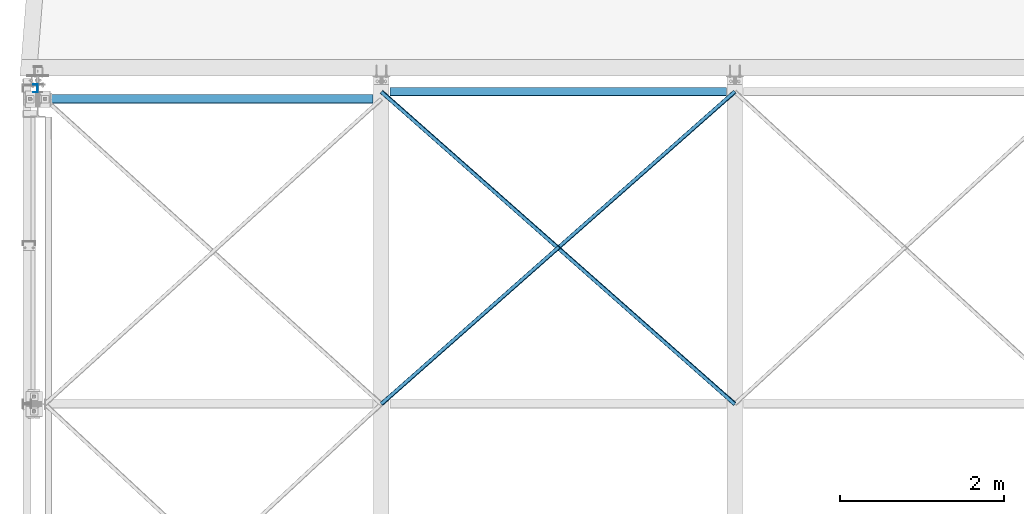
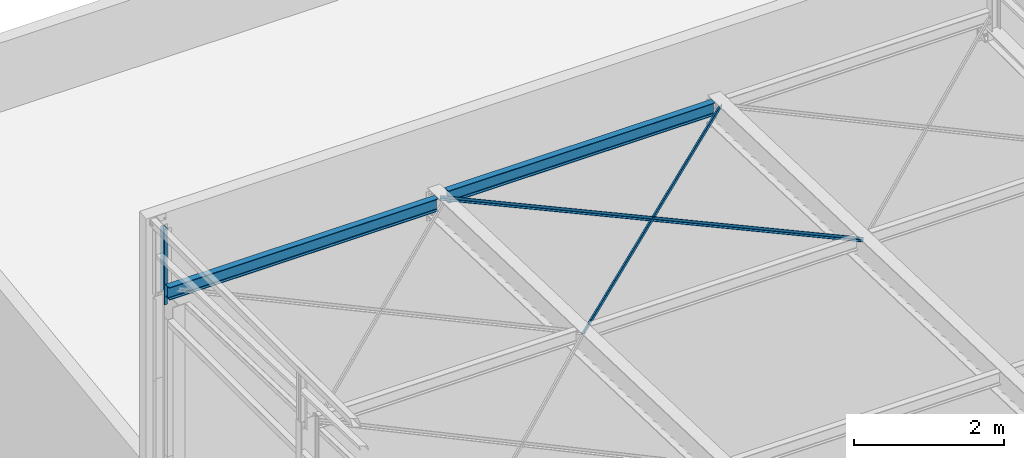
# One storey, part 27 of 123: 5 beams, 5 elements without a shape of their own.
"""IFC2X3 building model written with IfcOpenShell, lengths in millimetres."""

from ifc_helpers import new_model, si_unit, frame, origin_with_axes, origin_2d_with_axis, place, context, subcontext, project, spatial, polyline, i_section, l_section, u_section, outline, extrude, boolean, material, type_object, element, aggregate, save


model = new_model("IFC2X3")

# Units and contexts
model_context = context("Model", 3, precision=1e-05, world=origin_with_axes())
body_context = subcontext(model_context, "Body", "Model", "MODEL_VIEW")
ifc_project = project(units=[si_unit("LENGTHUNIT", "METRE", prefix="MILLI"), si_unit("AREAUNIT", "SQUARE_METRE"), si_unit("VOLUMEUNIT", "CUBIC_METRE"), si_unit("MASSUNIT", "GRAM", prefix="KILO"), si_unit("TIMEUNIT", "SECOND"), si_unit("PLANEANGLEUNIT", "RADIAN"), si_unit("SOLIDANGLEUNIT", "STERADIAN"), si_unit("THERMODYNAMICTEMPERATUREUNIT", "DEGREE_CELSIUS"), si_unit("LUMINOUSINTENSITYUNIT", "LUMEN")], contexts=[model_context])

# Site, building, storey
site_placement = place(None, origin_with_axes())
site = spatial("IfcSite", under=ifc_project, at=site_placement, Name="Undefined", CompositionType="ELEMENT")
building_placement = place(site_placement, origin_with_axes())
building = spatial("IfcBuilding", under=site, at=building_placement, Name="Undefined", CompositionType="ELEMENT")
storey_placement = place(building_placement, origin_with_axes())
storey = spatial("IfcBuildingStorey", under=building, at=storey_placement, Name="Undefined", CompositionType="ELEMENT", Elevation=0.0)

# Assembly, beam
assembly_1_placement = place(storey_placement, origin_with_axes())
assembly_1 = element("IfcElementAssembly", 1, at=assembly_1_placement, inside=storey, Name="Steel Assembly", AssemblyPlace="NOTDEFINED", PredefinedType="RIGID_FRAME")
ifc_material_1 = material(Name="STEEL/S235-E24")
beam_type_1 = type_object("IfcBeamType", Name="UPF-100*50*4", PredefinedType="NOTDEFINED")
beam_1_placement = place(assembly_1_placement, frame((-28.2999922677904, 15239.9917895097, 8445.00161512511), z_axis=(0.0, -1.0, 0.0), x_axis=(0.0, 0.0, -1.0)))
beam_1 = element("IfcBeam", 2, at=beam_1_placement, type_object=beam_type_1, material=ifc_material_1, Name="BAIONNETTE", ObjectType="UPF-100*50*4", context=body_context, shape_type="CSG", body=[
    boolean("DIFFERENCE", extrude(u_section(Depth=100.0, FlangeWidth=50.0, WebThickness=4.0, FlangeThickness=4.0, at=origin_2d_with_axis()), frame((1224.9986844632, 0.0, 0.0), z_axis=(-1.0, 0.0, 0.0), x_axis=(0.0, -1.0, 0.0)), (0.0, 0.0, 1.0), 1225.0), extrude(outline(polyline([(0.0, 0.0), (19.999999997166, 0.0), (19.999999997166, 170.0), (-2.84853740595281e-09, 170.0), (0.0, 0.0)])), frame((1054.99860081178, -27.5000085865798, -49.9999801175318), z_axis=(0.0, 1.0, 0.0), x_axis=(0.0, 0.0, 1.0)), (0.0, 0.0, 1.0), 55.0)),
])
aggregate(assembly_1, [beam_1])

assembly_2_placement = place(storey_placement, origin_with_axes())
assembly_2 = element("IfcElementAssembly", 3, at=assembly_2_placement, inside=storey, Name="Steel Assembly", AssemblyPlace="NOTDEFINED", PredefinedType="RIGID_FRAME")
beam_type_2 = type_object("IfcBeamType", Name="L50*5", PredefinedType="NOTDEFINED")
beam_2_placement = place(assembly_2_placement, frame((4180.00002650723, 11399.9990864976, 7591.6884229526), z_axis=(-0.662381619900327, 0.748796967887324, -0.023530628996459), x_axis=(0.749166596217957, 0.662054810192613, -0.0208047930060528)))
beam_2 = element("IfcBeam", 4, at=beam_2_placement, type_object=beam_type_2, material=ifc_material_1, Name="STABILITE CVT", ObjectType="L50*5", context=body_context, shape_type="SweptSolid", body=[
    extrude(l_section(Depth=50.0, Width=50.0, Thickness=5.0, FilletRadius=7.0, EdgeRadius=3.5, at=origin_2d_with_axis()), frame((5739.71129131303, 1.99136238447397e-14, -1.6606117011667e-12), z_axis=(-1.0, 0.0, 0.0), x_axis=(0.0, -1.0, 0.0)), (0.0, 0.0, 1.0), 5739.7),
])
aggregate(assembly_2, [beam_2])

assembly_3_placement = place(storey_placement, origin_with_axes())
assembly_3 = element("IfcElementAssembly", 5, at=assembly_3_placement, inside=storey, Name="Steel Assembly", AssemblyPlace="NOTDEFINED", PredefinedType="RIGID_FRAME")
beam_3_placement = place(assembly_3_placement, frame((8480.00002620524, 11399.9990849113, 7591.6884240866), z_axis=(-0.662381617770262, -0.748796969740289, 0.0235306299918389), x_axis=(-0.749166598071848, 0.662054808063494, -0.0208047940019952)))
beam_3 = element("IfcBeam", 6, at=beam_3_placement, type_object=beam_type_2, material=ifc_material_1, Name="STABILITE CVT", ObjectType="L50*5", context=body_context, shape_type="SweptSolid", body=[
    extrude(l_section(Depth=50.0, Width=50.0, Thickness=5.0, FilletRadius=7.0, EdgeRadius=3.5, at=origin_2d_with_axis()), frame((5739.71129131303, 1.99136238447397e-14, -1.6606117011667e-12), z_axis=(-1.0, 0.0, 0.0), x_axis=(0.0, -1.0, 0.0)), (0.0, 0.0, 1.0), 5739.7),
])
aggregate(assembly_3, [beam_3])

assembly_4_placement = place(storey_placement, origin_with_axes())
assembly_4 = element("IfcElementAssembly", 7, at=assembly_4_placement, inside=storey, Name="Steel Assembly", AssemblyPlace="NOTDEFINED", PredefinedType="RIGID_FRAME")
ifc_material_2 = material(Name="STEEL/S275-E28")
beam_type_3 = type_object("IfcBeamType", Name="IPE200", PredefinedType="NOTDEFINED")
beam_4_placement = place(assembly_4_placement, frame((4284.9999991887, 15199.9999999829, 7472.27130559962), z_axis=(0.0, 0.0314107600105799, 0.999506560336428), x_axis=(1.0, 0.0, 0.0)))
beam_4 = element("IfcBeam", 8, at=beam_4_placement, type_object=beam_type_3, material=ifc_material_2, Name="PANNE", ObjectType="IPE200", context=body_context, shape_type="SweptSolid", body=[
    extrude(i_section(OverallWidth=100.0, OverallDepth=200.0, WebThickness=5.599999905, FlangeThickness=8.5, FilletRadius=12.0, at=origin_2d_with_axis()), frame((4090.0, 0.0, 0.0), z_axis=(-1.0, 0.0, 0.0), x_axis=(0.0, -1.0, 0.0)), (0.0, 0.0, 1.0), 4090.0),
])
aggregate(assembly_4, [beam_4])

assembly_5_placement = place(storey_placement, origin_with_axes())
assembly_5 = element("IfcElementAssembly", 9, at=assembly_5_placement, inside=storey, Name="Steel Assembly", AssemblyPlace="NOTDEFINED", PredefinedType="RIGID_FRAME")
beam_5_placement = place(assembly_5_placement, frame((-50.0000008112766, 15110.0, 7475.09967154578), z_axis=(0.0, 0.0314107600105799, 0.999506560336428), x_axis=(1.0, 0.0, 0.0)))
beam_5 = element("IfcBeam", 10, at=beam_5_placement, type_object=beam_type_3, material=ifc_material_2, Name="PANNE", ObjectType="IPE200", context=body_context, shape_type="SweptSolid", body=[
    extrude(i_section(OverallWidth=100.0, OverallDepth=200.0, WebThickness=5.599999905, FlangeThickness=8.5, FilletRadius=12.0, at=origin_2d_with_axis()), frame((4124.99999999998, 0.0, 0.0), z_axis=(-1.0, 0.0, 0.0), x_axis=(0.0, -1.0, 0.0)), (0.0, 0.0, 1.0), 4125.0),
])
aggregate(assembly_5, [beam_5])

save(model, "model.ifc")
